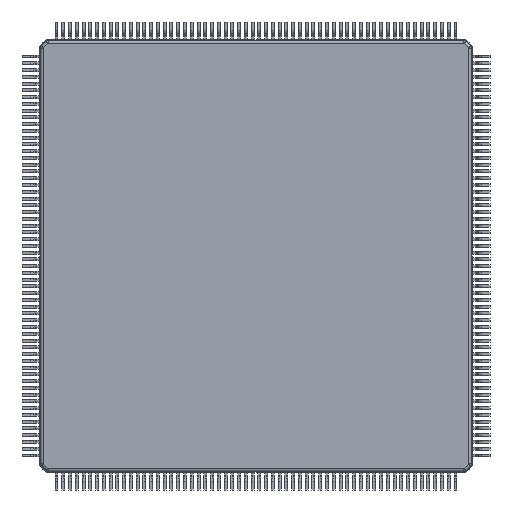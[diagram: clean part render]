
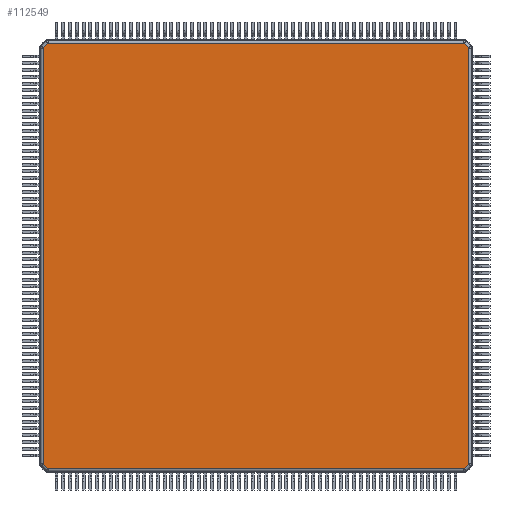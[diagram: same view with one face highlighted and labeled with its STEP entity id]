
A CAD part, front view. The second image highlights one B-rep face of the part: STEP entity #112549.
In plain terms, the highlighted planar face has unit normal (0, -1, 0).
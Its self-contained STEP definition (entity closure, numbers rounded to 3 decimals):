
#112478 = CARTESIAN_POINT ( 'NONE',  ( -15.701, 0.25, 15.376 ) ) ;
#112479 = VERTEX_POINT ( 'NONE', #112478 ) ;
#112480 = CARTESIAN_POINT ( 'NONE',  ( -15.701, 0.25, -15.376 ) ) ;
#112481 = VERTEX_POINT ( 'NONE', #112480 ) ;
#112482 = CARTESIAN_POINT ( 'NONE',  ( -15.701, 0.25, 0. ) ) ;
#112483 = DIRECTION ( 'NONE',  ( 0., 0., -1. ) ) ;
#112484 = VECTOR ( 'NONE', #112483, 1000. ) ;
#112485 = LINE ( 'NONE', #112482, #112484 ) ;
#112486 = EDGE_CURVE ( 'NONE', #112479, #112481, #112485, .T. ) ;
#112487 = ORIENTED_EDGE ( 'NONE', *, *, #112486, .T. ) ;
#112488 = CARTESIAN_POINT ( 'NONE',  ( -15.376, 0.25, -15.701 ) ) ;
#112489 = VERTEX_POINT ( 'NONE', #112488 ) ;
#112490 = CARTESIAN_POINT ( 'NONE',  ( -15.539, 0.25, -15.539 ) ) ;
#112491 = DIRECTION ( 'NONE',  ( 0.707, 0., -0.707 ) ) ;
#112492 = VECTOR ( 'NONE', #112491, 1000. ) ;
#112493 = LINE ( 'NONE', #112490, #112492 ) ;
#112494 = EDGE_CURVE ( 'NONE', #112481, #112489, #112493, .T. ) ;
#112495 = ORIENTED_EDGE ( 'NONE', *, *, #112494, .T. ) ;
#112496 = CARTESIAN_POINT ( 'NONE',  ( 15.376, 0.25, -15.701 ) ) ;
#112497 = VERTEX_POINT ( 'NONE', #112496 ) ;
#112498 = CARTESIAN_POINT ( 'NONE',  ( 0., 0.25, -15.701 ) ) ;
#112499 = DIRECTION ( 'NONE',  ( 1., 0., 0. ) ) ;
#112500 = VECTOR ( 'NONE', #112499, 1000. ) ;
#112501 = LINE ( 'NONE', #112498, #112500 ) ;
#112502 = EDGE_CURVE ( 'NONE', #112489, #112497, #112501, .T. ) ;
#112503 = ORIENTED_EDGE ( 'NONE', *, *, #112502, .T. ) ;
#112504 = CARTESIAN_POINT ( 'NONE',  ( 15.701, 0.25, -15.376 ) ) ;
#112505 = VERTEX_POINT ( 'NONE', #112504 ) ;
#112506 = CARTESIAN_POINT ( 'NONE',  ( 15.539, 0.25, -15.539 ) ) ;
#112507 = DIRECTION ( 'NONE',  ( 0.707, 0., 0.707 ) ) ;
#112508 = VECTOR ( 'NONE', #112507, 1000. ) ;
#112509 = LINE ( 'NONE', #112506, #112508 ) ;
#112510 = EDGE_CURVE ( 'NONE', #112497, #112505, #112509, .T. ) ;
#112511 = ORIENTED_EDGE ( 'NONE', *, *, #112510, .T. ) ;
#112512 = CARTESIAN_POINT ( 'NONE',  ( 15.701, 0.25, 15.376 ) ) ;
#112513 = VERTEX_POINT ( 'NONE', #112512 ) ;
#112514 = CARTESIAN_POINT ( 'NONE',  ( 15.701, 0.25, 0. ) ) ;
#112515 = DIRECTION ( 'NONE',  ( 0., 0., 1. ) ) ;
#112516 = VECTOR ( 'NONE', #112515, 1000. ) ;
#112517 = LINE ( 'NONE', #112514, #112516 ) ;
#112518 = EDGE_CURVE ( 'NONE', #112505, #112513, #112517, .T. ) ;
#112519 = ORIENTED_EDGE ( 'NONE', *, *, #112518, .T. ) ;
#112520 = CARTESIAN_POINT ( 'NONE',  ( 15.376, 0.25, 15.701 ) ) ;
#112521 = VERTEX_POINT ( 'NONE', #112520 ) ;
#112522 = CARTESIAN_POINT ( 'NONE',  ( 15.539, 0.25, 15.539 ) ) ;
#112523 = DIRECTION ( 'NONE',  ( -0.707, 0., 0.707 ) ) ;
#112524 = VECTOR ( 'NONE', #112523, 1000. ) ;
#112525 = LINE ( 'NONE', #112522, #112524 ) ;
#112526 = EDGE_CURVE ( 'NONE', #112513, #112521, #112525, .T. ) ;
#112527 = ORIENTED_EDGE ( 'NONE', *, *, #112526, .T. ) ;
#112528 = CARTESIAN_POINT ( 'NONE',  ( -15.376, 0.25, 15.701 ) ) ;
#112529 = VERTEX_POINT ( 'NONE', #112528 ) ;
#112530 = CARTESIAN_POINT ( 'NONE',  ( 0., 0.25, 15.701 ) ) ;
#112531 = DIRECTION ( 'NONE',  ( -1., 0., 0. ) ) ;
#112532 = VECTOR ( 'NONE', #112531, 1000. ) ;
#112533 = LINE ( 'NONE', #112530, #112532 ) ;
#112534 = EDGE_CURVE ( 'NONE', #112521, #112529, #112533, .T. ) ;
#112535 = ORIENTED_EDGE ( 'NONE', *, *, #112534, .T. ) ;
#112536 = CARTESIAN_POINT ( 'NONE',  ( -15.539, 0.25, 15.539 ) ) ;
#112537 = DIRECTION ( 'NONE',  ( -0.707, 0., -0.707 ) ) ;
#112538 = VECTOR ( 'NONE', #112537, 1000. ) ;
#112539 = LINE ( 'NONE', #112536, #112538 ) ;
#112540 = EDGE_CURVE ( 'NONE', #112529, #112479, #112539, .T. ) ;
#112541 = ORIENTED_EDGE ( 'NONE', *, *, #112540, .T. ) ;
#112542 = EDGE_LOOP ( 'NONE', ( #112487, #112495, #112503, #112511, #112519, #112527, #112535, #112541 ) ) ;
#112543 = FACE_OUTER_BOUND ( 'NONE', #112542, .T. ) ;
#112544 = CARTESIAN_POINT ( 'NONE',  ( 0., 0.25, 0. ) ) ;
#112545 = DIRECTION ( 'NONE',  ( 0., -1., 0. ) ) ;
#112546 = DIRECTION ( 'NONE',  ( 0., 0., -1. ) ) ;
#112547 = AXIS2_PLACEMENT_3D ( 'NONE', #112544, #112545, #112546 ) ;
#112548 = PLANE ( 'NONE', #112547 ) ;
#112549 = ADVANCED_FACE ( 'NONE', ( #112543 ), #112548, .T. ) ;
